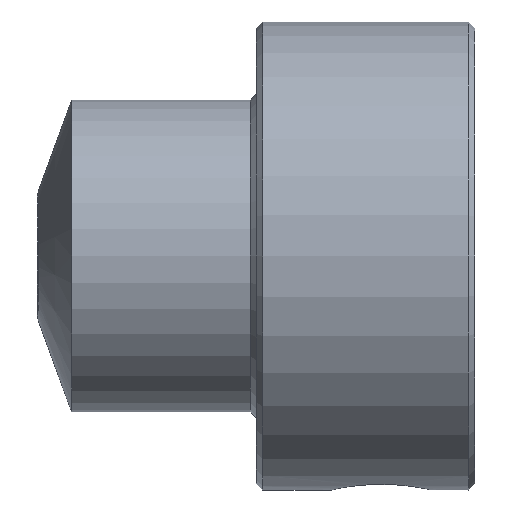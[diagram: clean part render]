
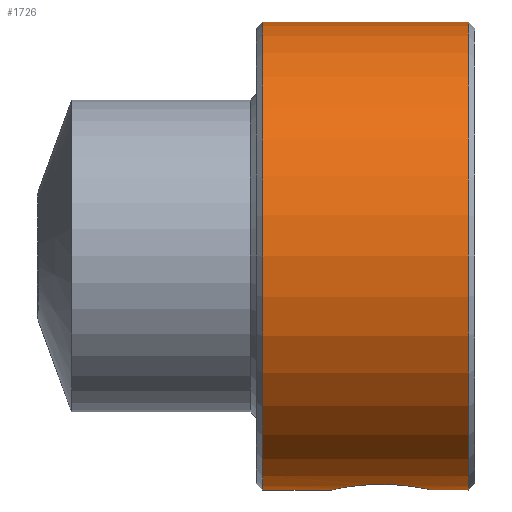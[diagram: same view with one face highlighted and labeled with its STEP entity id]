
A CAD part, front view. The second image highlights one B-rep face of the part: STEP entity #1726.
In plain terms, the highlighted cylindrical face has radius 7.5 mm (diameter 15 mm), a partial arc.
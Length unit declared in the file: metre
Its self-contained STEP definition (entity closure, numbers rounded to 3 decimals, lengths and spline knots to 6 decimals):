
#21 = EDGE_LOOP ( 'NONE', ( #1417, #1671, #1729, #1442, #1705, #482 ) ) ;
#248 = CARTESIAN_POINT ( 'NONE',  ( 0.0072, -0.002551, 0.0075 ) ) ;
#338 = EDGE_CURVE ( 'NONE', #1537, #706, #1171, .T. ) ;
#482 = ORIENTED_EDGE ( 'NONE', *, *, #725, .T. ) ;
#528 = CIRCLE ( 'NONE', #529, 0.0075 ) ;
#529 = AXIS2_PLACEMENT_3D ( 'NONE', #530, #531, #532 ) ;
#530 = CARTESIAN_POINT ( 'NONE',  ( 0.0072, -0.002551, 0. ) ) ;
#531 = DIRECTION ( 'NONE',  ( 1., 0., 0. ) ) ;
#532 = DIRECTION ( 'NONE',  ( 0., 0., 1. ) ) ;
#634 = CARTESIAN_POINT ( 'NONE',  ( 0.0072, -0.002551, -0.0075 ) ) ;
#683 = CARTESIAN_POINT ( 'NONE',  ( 0.0138, -0.002551, 0.0075 ) ) ;
#691 = B_SPLINE_CURVE_WITH_KNOTS ( 'NONE', 3,
 ( #692, #693, #694, #695, #696, #697, #698, #699, #700, #701, #702, #703, #704, #708, #709, #710 ),
 .UNSPECIFIED., .F., .F.,
 ( 4, 2, 2, 2, 2, 2, 2, 4 ),
 ( 0., 0.12496, 0.18744, 0.24992, 0.3124, 0.37488, 0.43736, 0.49984 ),
 .UNSPECIFIED. ) ;
#692 = CARTESIAN_POINT ( 'NONE',  ( 0.0094, -0.002551, -0.0075 ) ) ;
#693 = CARTESIAN_POINT ( 'NONE',  ( 0.0094, -0.002998, -0.0075 ) ) ;
#694 = CARTESIAN_POINT ( 'NONE',  ( 0.009557, -0.003382, -0.007461 ) ) ;
#695 = CARTESIAN_POINT ( 'NONE',  ( 0.010025, -0.003857, -0.007387 ) ) ;
#696 = CARTESIAN_POINT ( 'NONE',  ( 0.010198, -0.003976, -0.007364 ) ) ;
#697 = CARTESIAN_POINT ( 'NONE',  ( 0.010575, -0.004133, -0.007332 ) ) ;
#698 = CARTESIAN_POINT ( 'NONE',  ( 0.010779, -0.004173, -0.007323 ) ) ;
#699 = CARTESIAN_POINT ( 'NONE',  ( 0.01122, -0.004173, -0.007323 ) ) ;
#700 = CARTESIAN_POINT ( 'NONE',  ( 0.011423, -0.004134, -0.007332 ) ) ;
#701 = CARTESIAN_POINT ( 'NONE',  ( 0.0118, -0.003977, -0.007364 ) ) ;
#702 = CARTESIAN_POINT ( 'NONE',  ( 0.011973, -0.003858, -0.007387 ) ) ;
#703 = CARTESIAN_POINT ( 'NONE',  ( 0.012287, -0.00354, -0.007436 ) ) ;
#704 = CARTESIAN_POINT ( 'NONE',  ( 0.012404, -0.003366, -0.007458 ) ) ;
#706 = VERTEX_POINT ( 'NONE', #683 ) ;
#708 = CARTESIAN_POINT ( 'NONE',  ( 0.01256, -0.002983, -0.00749 ) ) ;
#709 = CARTESIAN_POINT ( 'NONE',  ( 0.0126, -0.002775, -0.0075 ) ) ;
#710 = CARTESIAN_POINT ( 'NONE',  ( 0.0126, -0.002551, -0.0075 ) ) ;
#725 = EDGE_CURVE ( 'NONE', #1565, #1579, #691, .T. ) ;
#807 = LINE ( 'NONE', #808, #809 ) ;
#808 = CARTESIAN_POINT ( 'NONE',  ( 0.009335, -0.002551, 0.0075 ) ) ;
#809 = VECTOR ( 'NONE',  #810 ,1. ) ;
#810 = DIRECTION ( 'NONE',  ( -1., 0., 0. ) ) ;
#825 = LINE ( 'NONE', #826, #827 ) ;
#826 = CARTESIAN_POINT ( 'NONE',  ( 0.009335, -0.002551, -0.0075 ) ) ;
#827 = VECTOR ( 'NONE',  #828 ,1. ) ;
#828 = DIRECTION ( 'NONE',  ( -1., 0., 0. ) ) ;
#848 = EDGE_CURVE ( 'NONE', #1565, #1633, #825, .T. ) ;
#922 = LINE ( 'NONE', #927, #928 ) ;
#927 = CARTESIAN_POINT ( 'NONE',  ( 0.009335, -0.002551, -0.0075 ) ) ;
#928 = VECTOR ( 'NONE',  #929 ,1. ) ;
#929 = DIRECTION ( 'NONE',  ( -1., 0., 0. ) ) ;
#939 = CARTESIAN_POINT ( 'NONE',  ( 0.0138, -0.002551, -0.0075 ) ) ;
#1051 = FACE_OUTER_BOUND ( 'NONE', #21, .T. ) ;
#1052 = CYLINDRICAL_SURFACE ( 'NONE', #1053, 0.0075 ) ;
#1053 = AXIS2_PLACEMENT_3D ( 'NONE', #1054, #1055, #1056 ) ;
#1054 = CARTESIAN_POINT ( 'NONE',  ( 0.009335, -0.002551, 0. ) ) ;
#1055 = DIRECTION ( 'NONE',  ( -1., 0., 0. ) ) ;
#1056 = DIRECTION ( 'NONE',  ( 0., 0., 1. ) ) ;
#1057 = CARTESIAN_POINT ( 'NONE',  ( 0.0094, -0.002551, -0.0075 ) ) ;
#1124 = CARTESIAN_POINT ( 'NONE',  ( 0.0126, -0.002551, -0.0075 ) ) ;
#1171 = CIRCLE ( 'NONE', #1172, 0.0075 ) ;
#1172 = AXIS2_PLACEMENT_3D ( 'NONE', #1173, #1174, #1175 ) ;
#1173 = CARTESIAN_POINT ( 'NONE',  ( 0.0138, -0.002551, 0. ) ) ;
#1174 = DIRECTION ( 'NONE',  ( -1., 0., 0. ) ) ;
#1175 = DIRECTION ( 'NONE',  ( 0., 0., 1. ) ) ;
#1333 = VERTEX_POINT ( 'NONE', #248 ) ;
#1417 = ORIENTED_EDGE ( 'NONE', *, *, #1528, .F. ) ;
#1442 = ORIENTED_EDGE ( 'NONE', *, *, #1471, .T. ) ;
#1471 = EDGE_CURVE ( 'NONE', #1333, #1633, #528, .T. ) ;
#1496 = EDGE_CURVE ( 'NONE', #706, #1333, #807, .T. ) ;
#1528 = EDGE_CURVE ( 'NONE', #1537, #1579, #922, .T. ) ;
#1537 = VERTEX_POINT ( 'NONE', #939 ) ;
#1565 = VERTEX_POINT ( 'NONE', #1057 ) ;
#1579 = VERTEX_POINT ( 'NONE', #1124 ) ;
#1633 = VERTEX_POINT ( 'NONE', #634 ) ;
#1671 = ORIENTED_EDGE ( 'NONE', *, *, #338, .T. ) ;
#1705 = ORIENTED_EDGE ( 'NONE', *, *, #848, .F. ) ;
#1726 = ADVANCED_FACE ( 'NONE', ( #1051 ), #1052, .T. ) ;
#1729 = ORIENTED_EDGE ( 'NONE', *, *, #1496, .T. ) ;
